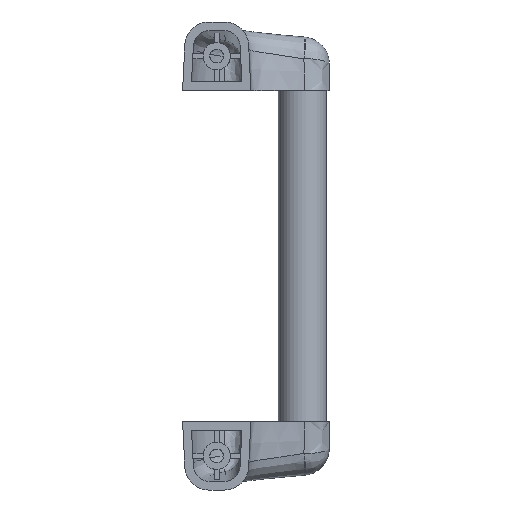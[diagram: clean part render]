
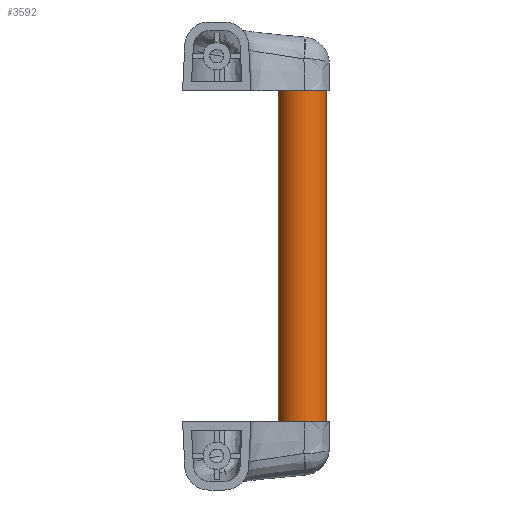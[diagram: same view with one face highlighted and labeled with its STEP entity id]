
A CAD part, top view. The second image highlights one B-rep face of the part: STEP entity #3592.
In plain terms, the highlighted cylindrical face has radius 7 mm (diameter 14 mm), a full revolution.
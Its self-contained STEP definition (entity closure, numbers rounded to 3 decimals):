
#477 = VERTEX_POINT ( 'NONE', #1837 ) ;
#565 = AXIS2_PLACEMENT_3D ( 'NONE', #3268, #1032, #4678 ) ;
#1030 = AXIS2_PLACEMENT_3D ( 'NONE', #1110, #5112, #2933 ) ;
#1032 = DIRECTION ( 'NONE',  ( -1., 0., 0. ) ) ;
#1110 = CARTESIAN_POINT ( 'NONE',  ( -57., 0., 0. ) ) ;
#1117 = FACE_OUTER_BOUND ( 'NONE', #4002, .T. ) ;
#1406 = AXIS2_PLACEMENT_3D ( 'NONE', #3905, #5700, #3792 ) ;
#1774 = EDGE_CURVE ( 'NONE', #477, #477, #5373, .T. ) ;
#1837 = CARTESIAN_POINT ( 'NONE',  ( 57., 0., -7. ) ) ;
#2182 = EDGE_CURVE ( 'NONE', #4123, #4123, #5745, .T. ) ;
#2933 = DIRECTION ( 'NONE',  ( 0., 0., -1. ) ) ;
#3260 = EDGE_LOOP ( 'NONE', ( #3480 ) ) ;
#3268 = CARTESIAN_POINT ( 'NONE',  ( 57., 0., 0. ) ) ;
#3298 = CARTESIAN_POINT ( 'NONE',  ( -57., 0., -7. ) ) ;
#3480 = ORIENTED_EDGE ( 'NONE', *, *, #1774, .F. ) ;
#3592 = ADVANCED_FACE ( 'NONE', ( #4055, #1117 ), #4737, .T. ) ;
#3792 = DIRECTION ( 'NONE',  ( 0., 0., -1. ) ) ;
#3905 = CARTESIAN_POINT ( 'NONE',  ( 57., 0., 0. ) ) ;
#4002 = EDGE_LOOP ( 'NONE', ( #4139 ) ) ;
#4055 = FACE_OUTER_BOUND ( 'NONE', #3260, .T. ) ;
#4123 = VERTEX_POINT ( 'NONE', #3298 ) ;
#4139 = ORIENTED_EDGE ( 'NONE', *, *, #2182, .T. ) ;
#4678 = DIRECTION ( 'NONE',  ( 0., 0., 1. ) ) ;
#4737 = CYLINDRICAL_SURFACE ( 'NONE', #565, 7. ) ;
#5112 = DIRECTION ( 'NONE',  ( 1., 0., 0. ) ) ;
#5373 = CIRCLE ( 'NONE', #1406, 7. ) ;
#5700 = DIRECTION ( 'NONE',  ( 1., 0., 0. ) ) ;
#5745 = CIRCLE ( 'NONE', #1030, 7. ) ;
